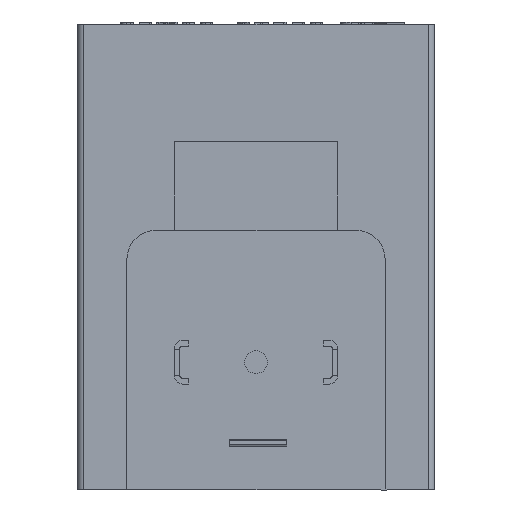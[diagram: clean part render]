
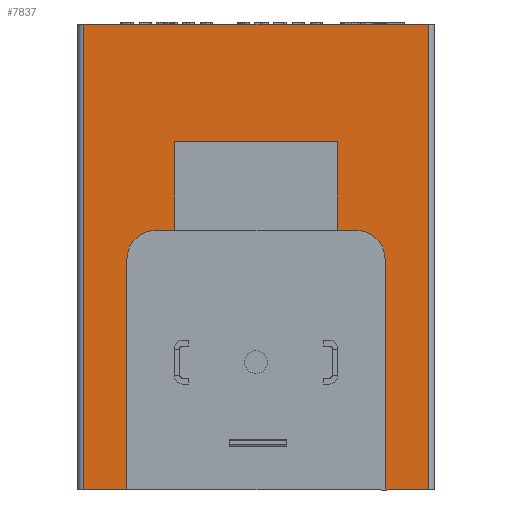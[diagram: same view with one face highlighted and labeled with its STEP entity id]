
A CAD part, front view. The second image highlights one B-rep face of the part: STEP entity #7837.
In plain terms, the highlighted planar face has unit normal (0, -1, 0).
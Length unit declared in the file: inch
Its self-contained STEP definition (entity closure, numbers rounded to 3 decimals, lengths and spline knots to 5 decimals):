
#5163=CARTESIAN_POINT('',(0.357,-1.055,1.638));
#5164=VERTEX_POINT('',#5163);
#5173=CARTESIAN_POINT('',(-0.357,-1.055,1.638));
#5174=VERTEX_POINT('',#5173);
#5175=CARTESIAN_POINT('',(-0.357,-1.055,1.638));
#5176=DIRECTION('',(1.0,0.0,0.0));
#5177=VECTOR('',#5176,0.714);
#5178=LINE('',#5175,#5177);
#5179=EDGE_CURVE('',#5164,#5174,#5178,.F.);
#5205=CARTESIAN_POINT('',(0.357,-1.055,1.251));
#5206=VERTEX_POINT('',#5205);
#5213=CARTESIAN_POINT('',(0.357,-1.055,1.638));
#5214=DIRECTION('',(0.0,0.0,-1.0));
#5215=VECTOR('',#5214,0.387);
#5216=LINE('',#5213,#5215);
#5217=EDGE_CURVE('',#5206,#5164,#5216,.F.);
#5258=CARTESIAN_POINT('',(-0.357,-1.055,1.251));
#5259=VERTEX_POINT('',#5258);
#5268=CARTESIAN_POINT('',(-0.357,-1.055,1.638));
#5269=DIRECTION('',(0.0,0.0,-1.0));
#5270=VECTOR('',#5269,0.387);
#5271=LINE('',#5268,#5270);
#5272=EDGE_CURVE('',#5174,#5259,#5271,.T.);
#5589=CARTESIAN_POINT('',(0.5625,-1.055,0.119));
#5590=VERTEX_POINT('',#5589);
#5598=CARTESIAN_POINT('',(-0.5625,-1.055,0.119));
#5599=VERTEX_POINT('',#5598);
#5606=CARTESIAN_POINT('',(-0.74998,-1.055,0.119));
#5607=VERTEX_POINT('',#5606);
#5608=CARTESIAN_POINT('',(-0.74998,-1.055,0.119));
#5609=DIRECTION('',(1.0,0.0,0.0));
#5610=VECTOR('',#5609,0.18748);
#5611=LINE('',#5608,#5610);
#5612=EDGE_CURVE('',#5607,#5599,#5611,.T.);
#5648=CARTESIAN_POINT('',(0.74998,-1.055,0.119));
#5649=VERTEX_POINT('',#5648);
#5657=CARTESIAN_POINT('',(0.5625,-1.055,0.119));
#5658=DIRECTION('',(1.0,0.0,0.0));
#5659=VECTOR('',#5658,0.18748);
#5660=LINE('',#5657,#5659);
#5661=EDGE_CURVE('',#5590,#5649,#5660,.T.);
#5682=CARTESIAN_POINT('',(-0.5625,-1.055,1.126));
#5683=VERTEX_POINT('',#5682);
#5684=CARTESIAN_POINT('',(-0.5625,-1.055,1.126));
#5685=DIRECTION('',(0.0,0.0,-1.0));
#5686=VECTOR('',#5685,1.007);
#5687=LINE('',#5684,#5686);
#5688=EDGE_CURVE('',#5683,#5599,#5687,.T.);
#5706=CARTESIAN_POINT('',(-0.4375,-1.055,1.251));
#5707=VERTEX_POINT('',#5706);
#5708=CARTESIAN_POINT('',(-0.4375,-1.055,1.126));
#5709=DIRECTION('',(0.,-1.,0.));
#5710=DIRECTION('',(-0.707,0.,0.707));
#5711=AXIS2_PLACEMENT_3D('',#5708,#5709,#5710);
#5712=CIRCLE('',#5711,0.125);
#5713=EDGE_CURVE('',#5707,#5683,#5712,.T.);
#5732=CARTESIAN_POINT('',(-0.357,-1.055,1.251));
#5733=DIRECTION('',(-1.0,0.0,0.0));
#5734=VECTOR('',#5733,0.0805);
#5735=LINE('',#5732,#5734);
#5736=EDGE_CURVE('',#5259,#5707,#5735,.T.);
#5740=CARTESIAN_POINT('',(0.4375,-1.055,1.251));
#5741=VERTEX_POINT('',#5740);
#5748=CARTESIAN_POINT('',(0.4375,-1.055,1.251));
#5749=DIRECTION('',(-1.0,0.0,0.0));
#5750=VECTOR('',#5749,0.0805);
#5751=LINE('',#5748,#5750);
#5752=EDGE_CURVE('',#5741,#5206,#5751,.T.);
#5764=CARTESIAN_POINT('',(0.5625,-1.055,1.126));
#5765=VERTEX_POINT('',#5764);
#5766=CARTESIAN_POINT('',(0.4375,-1.055,1.126));
#5767=DIRECTION('',(0.,-1.,0.));
#5768=DIRECTION('',(0.707,0.,0.707));
#5769=AXIS2_PLACEMENT_3D('',#5766,#5767,#5768);
#5770=CIRCLE('',#5769,0.125);
#5771=EDGE_CURVE('',#5765,#5741,#5770,.T.);
#5789=CARTESIAN_POINT('',(0.5625,-1.055,0.119));
#5790=DIRECTION('',(0.0,0.0,1.0));
#5791=VECTOR('',#5790,1.007);
#5792=LINE('',#5789,#5791);
#5793=EDGE_CURVE('',#5590,#5765,#5792,.T.);
#6967=CARTESIAN_POINT('',(0.74998,-1.055,2.149));
#6968=VERTEX_POINT('',#6967);
#7001=CARTESIAN_POINT('',(-0.74998,-1.055,2.149));
#7002=VERTEX_POINT('',#7001);
#7010=CARTESIAN_POINT('',(0.74998,-1.055,2.149));
#7011=DIRECTION('',(-1.0,0.0,0.0));
#7012=VECTOR('',#7011,1.49996);
#7013=LINE('',#7010,#7012);
#7014=EDGE_CURVE('',#6968,#7002,#7013,.T.);
#7093=CARTESIAN_POINT('',(0.74998,-1.055,2.149));
#7094=DIRECTION('',(0.0,0.0,-1.0));
#7095=VECTOR('',#7094,2.03);
#7096=LINE('',#7093,#7095);
#7097=EDGE_CURVE('',#6968,#5649,#7096,.T.);
#7108=CARTESIAN_POINT('',(-0.74998,-1.055,2.149));
#7109=DIRECTION('',(0.0,0.0,-1.0));
#7110=VECTOR('',#7109,2.03);
#7111=LINE('',#7108,#7110);
#7112=EDGE_CURVE('',#7002,#5607,#7111,.T.);
#7816=CARTESIAN_POINT('',(-0.74998,-1.055,2.149));
#7817=DIRECTION('',(0.0,-1.0,0.0));
#7818=DIRECTION('',(0.0,0.0,1.0));
#7819=AXIS2_PLACEMENT_3D('',#7816,#7817,#7818);
#7820=PLANE('',#7819);
#7821=ORIENTED_EDGE('',*,*,#5272,.F.);
#7822=ORIENTED_EDGE('',*,*,#5179,.F.);
#7823=ORIENTED_EDGE('',*,*,#5217,.F.);
#7824=ORIENTED_EDGE('',*,*,#5752,.F.);
#7825=ORIENTED_EDGE('',*,*,#5771,.F.);
#7826=ORIENTED_EDGE('',*,*,#5793,.F.);
#7827=ORIENTED_EDGE('',*,*,#5661,.T.);
#7828=ORIENTED_EDGE('',*,*,#7097,.F.);
#7829=ORIENTED_EDGE('',*,*,#7014,.T.);
#7830=ORIENTED_EDGE('',*,*,#7112,.T.);
#7831=ORIENTED_EDGE('',*,*,#5612,.T.);
#7832=ORIENTED_EDGE('',*,*,#5688,.F.);
#7833=ORIENTED_EDGE('',*,*,#5713,.F.);
#7834=ORIENTED_EDGE('',*,*,#5736,.F.);
#7835=EDGE_LOOP('',(#7821,#7822,#7823,#7824,#7825,#7826,#7827,#7828,#7829,#7830,#7831,#7832,#7833,#7834));
#7836=FACE_OUTER_BOUND('',#7835,.T.);
#7837=ADVANCED_FACE('',(#7836),#7820,.T.);
